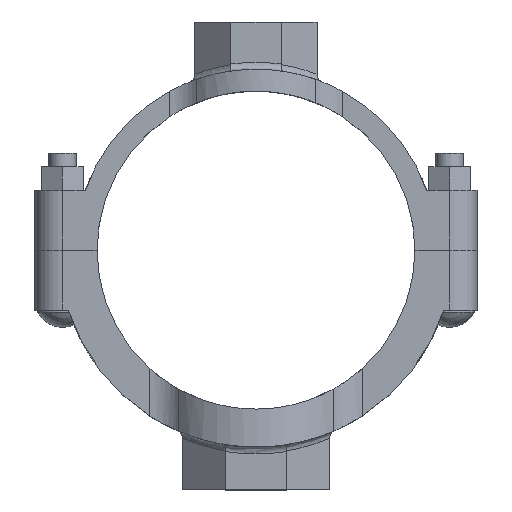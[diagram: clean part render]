
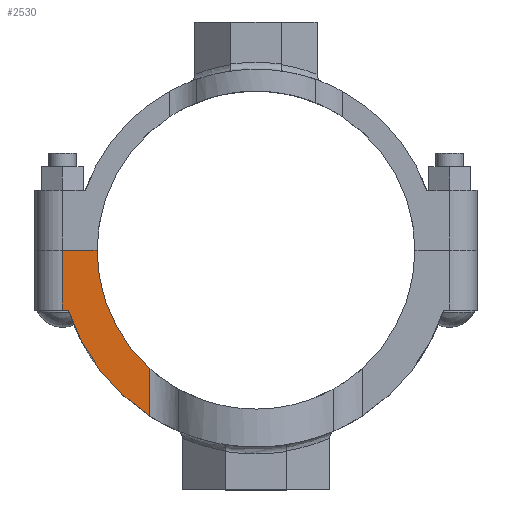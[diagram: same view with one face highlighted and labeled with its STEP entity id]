
A CAD part, top view. The second image highlights one B-rep face of the part: STEP entity #2530.
In plain terms, the highlighted planar face has unit normal (0, 0, 1).
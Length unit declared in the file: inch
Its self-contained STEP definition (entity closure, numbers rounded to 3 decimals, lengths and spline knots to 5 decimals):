
#298=FACE_OUTER_BOUND('',#449,.T.);
#449=EDGE_LOOP('',(#2098,#2099,#2100,#2101,#2102,#2103));
#613=LINE('',#4907,#799);
#632=LINE('',#5140,#818);
#633=LINE('',#5141,#819);
#634=LINE('',#5142,#820);
#799=VECTOR('',#3337,0.3937);
#818=VECTOR('',#3408,0.3937);
#819=VECTOR('',#3409,0.3937);
#820=VECTOR('',#3410,0.3937);
#905=CIRCLE('',#2776,5.34);
#927=CIRCLE('',#2814,4.3125);
#1108=VERTEX_POINT('',#4773);
#1109=VERTEX_POINT('',#4786);
#1128=VERTEX_POINT('',#4906);
#1152=VERTEX_POINT('',#5082);
#1153=VERTEX_POINT('',#5084);
#1158=VERTEX_POINT('',#5139);
#1422=EDGE_CURVE('',#1109,#1108,#905,.T.);
#1446=EDGE_CURVE('',#1128,#1109,#613,.T.);
#1480=EDGE_CURVE('',#1153,#1152,#927,.T.);
#1486=EDGE_CURVE('',#1152,#1158,#632,.T.);
#1487=EDGE_CURVE('',#1158,#1128,#633,.T.);
#1488=EDGE_CURVE('',#1153,#1108,#634,.T.);
#2098=ORIENTED_EDGE('',*,*,#1480,.T.);
#2099=ORIENTED_EDGE('',*,*,#1486,.T.);
#2100=ORIENTED_EDGE('',*,*,#1487,.T.);
#2101=ORIENTED_EDGE('',*,*,#1446,.T.);
#2102=ORIENTED_EDGE('',*,*,#1422,.T.);
#2103=ORIENTED_EDGE('',*,*,#1488,.F.);
#2274=PLANE('',#2816);
#2530=ADVANCED_FACE('',(#298),#2274,.T.);
#2776=AXIS2_PLACEMENT_3D('',#4787,#3297,#3298);
#2814=AXIS2_PLACEMENT_3D('',#5085,#3401,#3402);
#2816=AXIS2_PLACEMENT_3D('',#5138,#3406,#3407);
#3297=DIRECTION('center_axis',(0.,0.,1.));
#3298=DIRECTION('ref_axis',(0.953,0.304,0.));
#3337=DIRECTION('',(-1.,0.,0.));
#3401=DIRECTION('center_axis',(0.,0.,-1.));
#3402=DIRECTION('ref_axis',(-1.,0.,0.));
#3406=DIRECTION('center_axis',(0.,0.,1.));
#3407=DIRECTION('ref_axis',(1.,0.,0.));
#3408=DIRECTION('',(1.,0.,0.));
#3409=DIRECTION('',(0.,1.,0.));
#3410=DIRECTION('',(0.,1.,0.));
#4773=CARTESIAN_POINT('',(2.88037,4.49656,1.25));
#4786=CARTESIAN_POINT('',(5.08675,1.625,1.25));
#4787=CARTESIAN_POINT('Origin',(0.,0.,1.25));
#4906=CARTESIAN_POINT('',(5.25,1.625,1.25));
#4907=CARTESIAN_POINT('',(3.98356,1.625,1.25));
#5082=CARTESIAN_POINT('',(4.3125,0.,1.25));
#5084=CARTESIAN_POINT('',(2.88037,3.20954,1.25));
#5085=CARTESIAN_POINT('Origin',(0.,0.,1.25));
#5138=CARTESIAN_POINT('Origin',(2.88037,0.,1.25));
#5139=CARTESIAN_POINT('',(5.25,0.,1.25));
#5140=CARTESIAN_POINT('',(2.88037,0.,1.25));
#5141=CARTESIAN_POINT('',(5.25,0.,1.25));
#5142=CARTESIAN_POINT('',(2.88037,0.,1.25));
